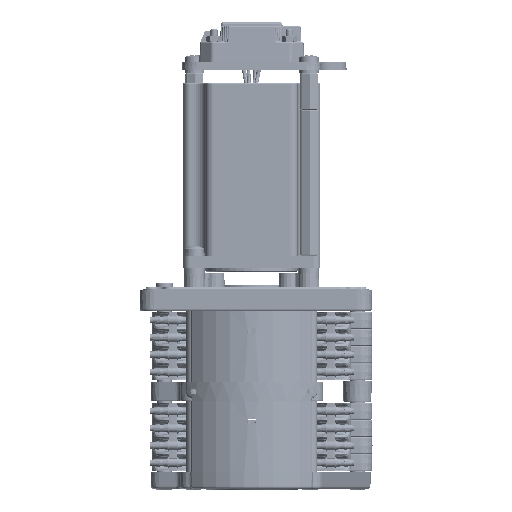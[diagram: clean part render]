
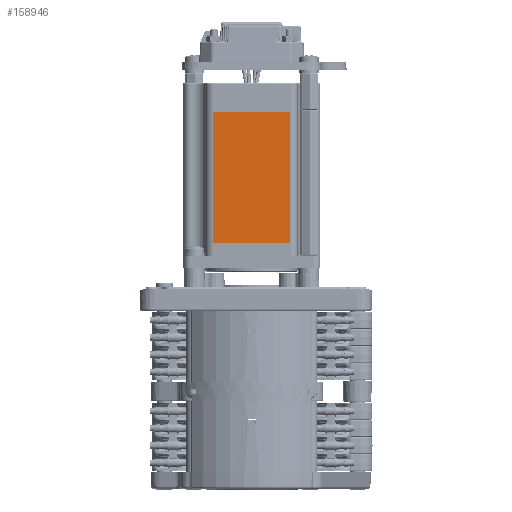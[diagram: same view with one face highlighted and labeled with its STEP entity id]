
A CAD part, front view. The second image highlights one B-rep face of the part: STEP entity #158946.
In plain terms, the highlighted planar face has unit normal (0, -1, 0).
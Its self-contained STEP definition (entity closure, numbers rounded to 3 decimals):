
#1243 = CARTESIAN_POINT ( 'NONE',  ( 14.158, -29.2, 82. ) ) ;
#10380 = CARTESIAN_POINT ( 'NONE',  ( 14.15, -29.2, 28. ) ) ;
#10492 = ORIENTED_EDGE ( 'NONE', *, *, #169681, .F. ) ;
#11065 = DIRECTION ( 'NONE',  ( 0., 0., -1. ) ) ;
#13352 = CARTESIAN_POINT ( 'NONE',  ( -17.65, -29.2, 28. ) ) ;
#16199 = CARTESIAN_POINT ( 'NONE',  ( -17.674, -29.2, 82. ) ) ;
#30439 = CARTESIAN_POINT ( 'NONE',  ( -17.674, -29.2, 82. ) ) ;
#32813 = CARTESIAN_POINT ( 'NONE',  ( -17.65, -29.2, 82. ) ) ;
#39599 = PLANE ( 'NONE',  #165586 ) ;
#40496 = CARTESIAN_POINT ( 'NONE',  ( 14.166, -29.2, 28. ) ) ;
#40643 = VERTEX_POINT ( 'NONE', #30439 ) ;
#41543 = CARTESIAN_POINT ( 'NONE',  ( 14.174, -29.2, 28. ) ) ;
#42277 = VERTEX_POINT ( 'NONE', #71171 ) ;
#46546 = CARTESIAN_POINT ( 'NONE',  ( -17.666, -29.2, 28. ) ) ;
#49462 = CARTESIAN_POINT ( 'NONE',  ( 14.15, -29.2, 82. ) ) ;
#57304 = EDGE_CURVE ( 'NONE', #42277, #200018, #140890, .T. ) ;
#61789 = CARTESIAN_POINT ( 'NONE',  ( -17.65, -29.2, 28. ) ) ;
#63970 = CARTESIAN_POINT ( 'NONE',  ( -17.666, -29.2, 82. ) ) ;
#64545 = CARTESIAN_POINT ( 'NONE',  ( 14.166, -29.2, 82. ) ) ;
#71171 = CARTESIAN_POINT ( 'NONE',  ( -17.65, -29.2, 82. ) ) ;
#75547 = ORIENTED_EDGE ( 'NONE', *, *, #123222, .F. ) ;
#76691 = B_SPLINE_CURVE_WITH_KNOTS ( 'NONE', 3,
 ( #10380, #184715, #40496, #41543 ),
 .UNSPECIFIED., .F., .F.,
 ( 4, 4 ),
 ( 0., 1. ),
 .UNSPECIFIED. ) ;
#77775 = EDGE_CURVE ( 'NONE', #143887, #172238, #100290, .T. ) ;
#81317 = CARTESIAN_POINT ( 'NONE',  ( 14.15, -29.2, 82. ) ) ;
#81359 = VERTEX_POINT ( 'NONE', #99608 ) ;
#82978 = VERTEX_POINT ( 'NONE', #154042 ) ;
#85319 = FACE_OUTER_BOUND ( 'NONE', #153038, .T. ) ;
#87170 = ORIENTED_EDGE ( 'NONE', *, *, #57304, .F. ) ;
#89765 = ORIENTED_EDGE ( 'NONE', *, *, #77775, .T. ) ;
#89922 = LINE ( 'NONE', #153263, #141983 ) ;
#90208 = CARTESIAN_POINT ( 'NONE',  ( -17.658, -29.2, 28. ) ) ;
#91083 = ORIENTED_EDGE ( 'NONE', *, *, #170055, .T. ) ;
#95663 = CARTESIAN_POINT ( 'NONE',  ( 14.15, -29.2, 82. ) ) ;
#96591 = VERTEX_POINT ( 'NONE', #191687 ) ;
#96868 = CARTESIAN_POINT ( 'NONE',  ( -17.65, -29.2, 82. ) ) ;
#97383 = VECTOR ( 'NONE', #167688, 1000. ) ;
#99608 = CARTESIAN_POINT ( 'NONE',  ( 14.15, -29.2, 28. ) ) ;
#100290 = LINE ( 'NONE', #163619, #97383 ) ;
#103953 = DIRECTION ( 'NONE',  ( 0., 0., -1. ) ) ;
#107960 = CARTESIAN_POINT ( 'NONE',  ( 14.174, -29.2, 82. ) ) ;
#111707 = CARTESIAN_POINT ( 'NONE',  ( -17.658, -29.2, 82. ) ) ;
#114969 = ORIENTED_EDGE ( 'NONE', *, *, #200601, .T. ) ;
#123222 = EDGE_CURVE ( 'NONE', #200018, #172238, #198618, .T. ) ;
#126786 = B_SPLINE_CURVE_WITH_KNOTS ( 'NONE', 3,
 ( #61789, #170806, #184332, #185315 ),
 .UNSPECIFIED., .F., .F.,
 ( 4, 4 ),
 ( 0., 1. ),
 .UNSPECIFIED. ) ;
#131853 = B_SPLINE_CURVE_WITH_KNOTS ( 'NONE', 3,
 ( #152509, #46546, #90208, #13352 ),
 .UNSPECIFIED., .F., .F.,
 ( 4, 4 ),
 ( 0., 1. ),
 .UNSPECIFIED. ) ;
#136134 = DIRECTION ( 'NONE',  ( 0., 1., 0. ) ) ;
#140536 = CARTESIAN_POINT ( 'NONE',  ( -7.05, -29.2, 82. ) ) ;
#140890 = B_SPLINE_CURVE_WITH_KNOTS ( 'NONE', 3,
 ( #96868, #140536, #176782, #81317 ),
 .UNSPECIFIED., .F., .F.,
 ( 4, 4 ),
 ( 0., 1. ),
 .UNSPECIFIED. ) ;
#141983 = VECTOR ( 'NONE', #11065, 1000. ) ;
#143887 = VERTEX_POINT ( 'NONE', #155085 ) ;
#151696 = CARTESIAN_POINT ( 'NONE',  ( -21.45, -29.2, 82. ) ) ;
#152509 = CARTESIAN_POINT ( 'NONE',  ( -17.674, -29.2, 28. ) ) ;
#153038 = EDGE_LOOP ( 'NONE', ( #10492, #163811, #191936, #114969, #91083, #89765, #75547, #87170 ) ) ;
#153263 = CARTESIAN_POINT ( 'NONE',  ( -17.674, -29.2, 5.605 ) ) ;
#154042 = CARTESIAN_POINT ( 'NONE',  ( -17.674, -29.2, 28. ) ) ;
#155085 = CARTESIAN_POINT ( 'NONE',  ( 14.174, -29.2, 28. ) ) ;
#158946 = ADVANCED_FACE ( 'NONE', ( #85319 ), #39599, .F. ) ;
#163619 = CARTESIAN_POINT ( 'NONE',  ( 14.174, -29.2, 5.605 ) ) ;
#163811 = ORIENTED_EDGE ( 'NONE', *, *, #182828, .T. ) ;
#165586 = AXIS2_PLACEMENT_3D ( 'NONE', #151696, #136134, #103953 ) ;
#167688 = DIRECTION ( 'NONE',  ( 0., 0., 1. ) ) ;
#169681 = EDGE_CURVE ( 'NONE', #40643, #42277, #192817, .T. ) ;
#170055 = EDGE_CURVE ( 'NONE', #81359, #143887, #76691, .T. ) ;
#170806 = CARTESIAN_POINT ( 'NONE',  ( -7.05, -29.2, 28. ) ) ;
#172238 = VERTEX_POINT ( 'NONE', #107960 ) ;
#176782 = CARTESIAN_POINT ( 'NONE',  ( 3.55, -29.2, 82. ) ) ;
#182828 = EDGE_CURVE ( 'NONE', #40643, #82978, #89922, .T. ) ;
#184332 = CARTESIAN_POINT ( 'NONE',  ( 3.55, -29.2, 28. ) ) ;
#184715 = CARTESIAN_POINT ( 'NONE',  ( 14.158, -29.2, 28. ) ) ;
#185315 = CARTESIAN_POINT ( 'NONE',  ( 14.15, -29.2, 28. ) ) ;
#187194 = EDGE_CURVE ( 'NONE', #82978, #96591, #131853, .T. ) ;
#191113 = CARTESIAN_POINT ( 'NONE',  ( 14.174, -29.2, 82. ) ) ;
#191687 = CARTESIAN_POINT ( 'NONE',  ( -17.65, -29.2, 28. ) ) ;
#191936 = ORIENTED_EDGE ( 'NONE', *, *, #187194, .T. ) ;
#192817 = B_SPLINE_CURVE_WITH_KNOTS ( 'NONE', 3,
 ( #16199, #63970, #111707, #32813 ),
 .UNSPECIFIED., .F., .F.,
 ( 4, 4 ),
 ( 0., 1. ),
 .UNSPECIFIED. ) ;
#198618 = B_SPLINE_CURVE_WITH_KNOTS ( 'NONE', 3,
 ( #95663, #1243, #64545, #191113 ),
 .UNSPECIFIED., .F., .F.,
 ( 4, 4 ),
 ( 0., 1. ),
 .UNSPECIFIED. ) ;
#200018 = VERTEX_POINT ( 'NONE', #49462 ) ;
#200601 = EDGE_CURVE ( 'NONE', #96591, #81359, #126786, .T. ) ;
